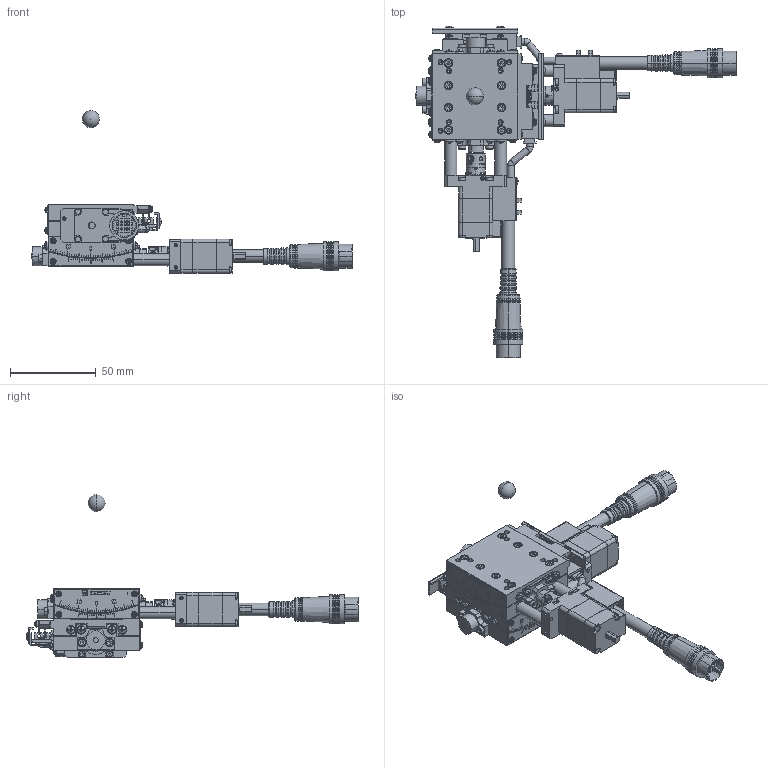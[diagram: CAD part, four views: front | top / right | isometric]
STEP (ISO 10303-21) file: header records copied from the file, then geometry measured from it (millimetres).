
FILE_DESCRIPTION (( 'STEP AP203' ), '1' );
FILE_NAME ('SA05A-R2S01.STEP', '2019-12-03T10:49:29', ( '' ), ( '' ), 'SwSTEP 2.0', 'SolidWorks 2018', '' );
FILE_SCHEMA (( 'CONFIG_CONTROL_DESIGN' ));
Products named in the file (12): second table-Part-1; base-Part-1; SA05A-R2S01; base-Part-2; rotation center; second table-Part-3; table; SA05A-R2S01.sldasm-Part-1; base; base-Part-3; second table; second table-Part-2
Assembly tree (10 placements, depth 3):
  SA05A-R2S01
    second table
      second table-Part-1
      second table-Part-2
      second table-Part-3
    base
      base-Part-1
      base-Part-2
      base-Part-3
    rotation center
    table
  SA05A-R2S01.sldasm-Part-1
Bounding box: 187 x 193.68 x 95 mm (x, y, z)
Volume: 153118.9 mm3; surface area: 77901 mm2
Topology: 8 solids, 16 shells, 5090 faces, 12783 edges, 7911 vertices
Faces by surface type: plane 3163, cylinder 1113, cone 436, torus 268, sphere 98, bspline 12
Entity records: 156608 total; most frequent: CARTESIAN_POINT 31824, DIRECTION 26692, ORIENTED_EDGE 25212, EDGE_CURVE 12606, AXIS2_PLACEMENT_3D 9432, VERTEX_POINT 7900, LINE 7828, VECTOR 7828
